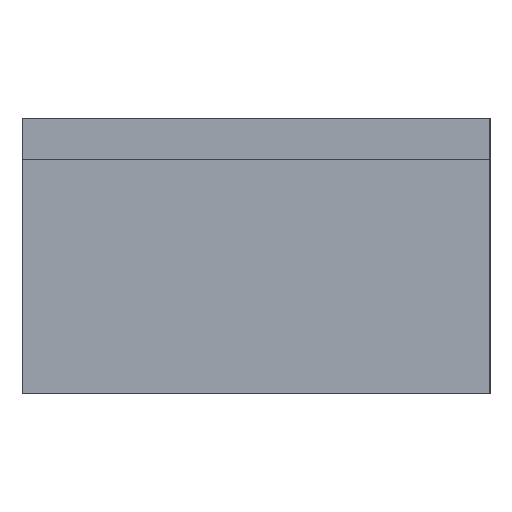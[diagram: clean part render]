
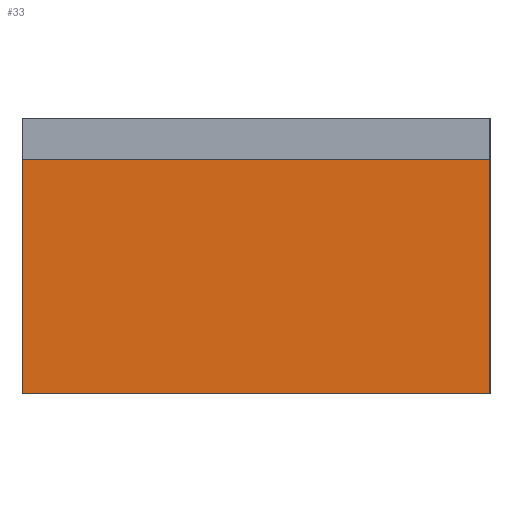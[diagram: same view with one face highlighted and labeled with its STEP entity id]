
A CAD part, left-side view. The second image highlights one B-rep face of the part: STEP entity #33.
In plain terms, the highlighted planar face has unit normal (-1, 0, 0).
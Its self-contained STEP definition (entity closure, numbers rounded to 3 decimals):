
#33=ADVANCED_FACE('',(#51),#255,.T.);
#51=FACE_OUTER_BOUND('',#69,.T.);
#69=EDGE_LOOP('',(#132,#133,#134,#135));
#132=ORIENTED_EDGE('',*,*,#178,.T.);
#133=ORIENTED_EDGE('',*,*,#171,.T.);
#134=ORIENTED_EDGE('',*,*,#179,.F.);
#135=ORIENTED_EDGE('',*,*,#176,.F.);
#171=EDGE_CURVE('',#232,#235,#207,.T.);
#176=EDGE_CURVE('',#238,#239,#212,.T.);
#178=EDGE_CURVE('',#238,#232,#214,.T.);
#179=EDGE_CURVE('',#239,#235,#215,.T.);
#207=B_SPLINE_CURVE_WITH_KNOTS('',1,(#484,#485),.UNSPECIFIED.,.F.,.F.,(2,
2),(0.,170.),.UNSPECIFIED.);
#212=B_SPLINE_CURVE_WITH_KNOTS('',1,(#494,#495),.UNSPECIFIED.,.F.,.F.,(2,
2),(0.,170.),.UNSPECIFIED.);
#214=B_SPLINE_CURVE_WITH_KNOTS('',1,(#498,#499),.UNSPECIFIED.,.F.,.F.,(2,
2),(400.,740.),.UNSPECIFIED.);
#215=B_SPLINE_CURVE_WITH_KNOTS('',1,(#500,#501),.UNSPECIFIED.,.F.,.F.,(2,
2),(400.,740.),.UNSPECIFIED.);
#232=VERTEX_POINT('',#470);
#235=VERTEX_POINT('',#473);
#238=VERTEX_POINT('',#476);
#239=VERTEX_POINT('',#477);
#255=PLANE('',#361);
#361=AXIS2_PLACEMENT_3D('',#467,#382,$);
#382=DIRECTION('',(-1.,0.,0.));
#467=CARTESIAN_POINT('',(-1228.137,102.677,0.));
#470=CARTESIAN_POINT('',(-1228.137,-237.323,0.));
#473=CARTESIAN_POINT('',(-1228.137,-237.323,170.));
#476=CARTESIAN_POINT('',(-1228.137,102.677,0.));
#477=CARTESIAN_POINT('',(-1228.137,102.677,170.));
#484=CARTESIAN_POINT('',(-1228.137,-237.323,0.));
#485=CARTESIAN_POINT('',(-1228.137,-237.323,170.));
#494=CARTESIAN_POINT('',(-1228.137,102.677,0.));
#495=CARTESIAN_POINT('',(-1228.137,102.677,170.));
#498=CARTESIAN_POINT('',(-1228.137,102.677,0.));
#499=CARTESIAN_POINT('',(-1228.137,-237.323,0.));
#500=CARTESIAN_POINT('',(-1228.137,102.677,170.));
#501=CARTESIAN_POINT('',(-1228.137,-237.323,170.));
